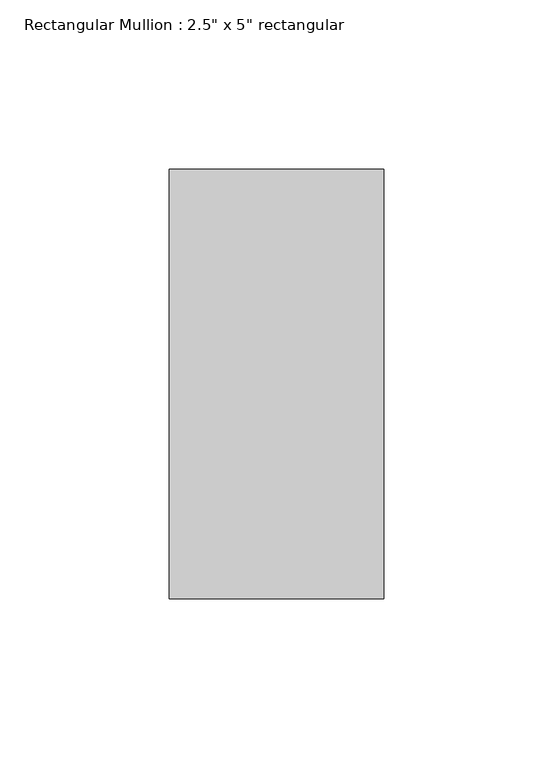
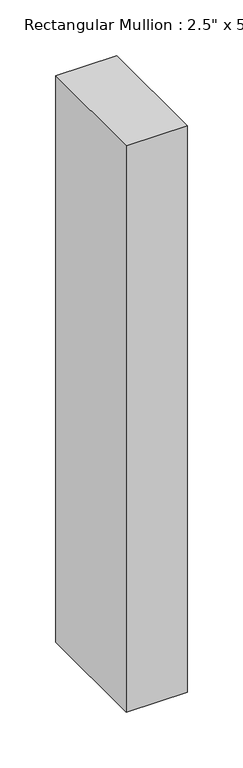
"""IFC4 building model written with IfcOpenShell, lengths in millimetres: member geometry."""

from ifc_helpers import new_model, si_unit, frame, origin, place, context, project, spatial, polyline, outline, extrude, source, transform, mapped, element, save


def member_30bdb196(model_context):
    return source(origin(), model_context, "Body", "SweptSolid", [
        extrude(outline(polyline([(0.0, 63.5), (0.0, -63.5), (-63.5, -63.5), (-63.5, 63.5), (0.0, 63.5)])), frame((0.0, 0.0, -622.3149811), z_axis=(0.0, 0.0, 1.0), x_axis=(1.0, 0.0, 0.0)), (0.0, 0.0, 1.0), 622.3149811),
    ])


if __name__ == "__main__":
    model = new_model("IFC4")
    model_context = context("Model", 3, world=origin())
    ifc_project = project(units=[si_unit("LENGTHUNIT", "METRE", prefix="MILLI")], contexts=[model_context])
    site = spatial("IfcSite", under=ifc_project)
    building = spatial("IfcBuilding", under=site)
    placement = place(None, origin())
    member_shape = member_30bdb196(model_context)
    element("IfcMember", 1, ObjectType="Rectangular Mullion : 2.5\" x 5\" rectangular", at=placement, inside=building, context=model_context, shape_type="MappedRepresentation", body=[
        mapped(member_shape, transform((0.0, 0.0, 0.0), x_axis=(1.0, 0.0, 0.0), y_axis=(0.0, 1.0, 0.0), z_axis=(0.0, 0.0, 1.0))),
    ])
    save(model, "model.ifc")
